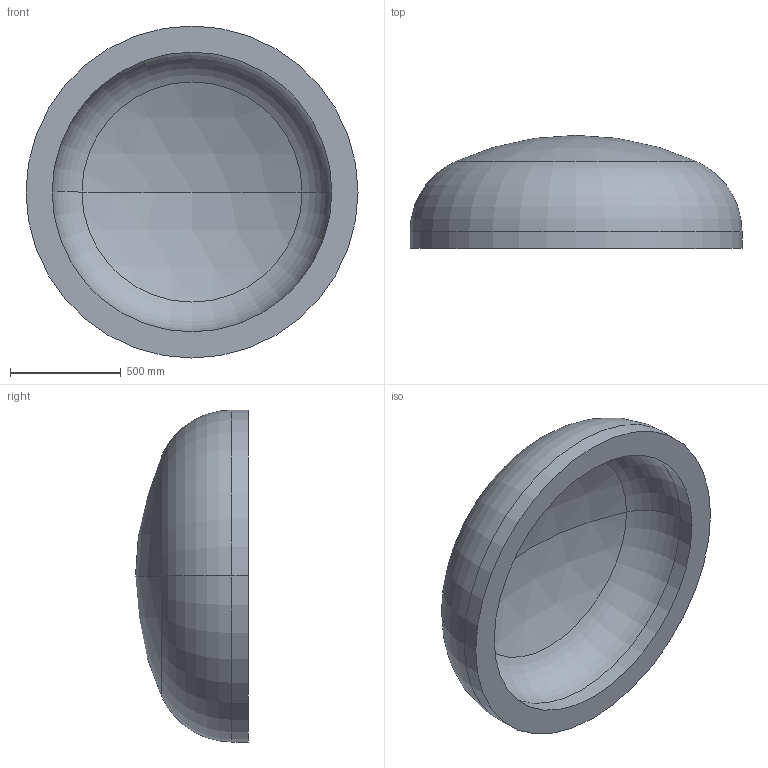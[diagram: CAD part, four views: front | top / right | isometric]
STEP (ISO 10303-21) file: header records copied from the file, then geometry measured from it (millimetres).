
FILE_DESCRIPTION (( 'STEP AP203' ), '1' );
FILE_NAME ('DIN 28013 Korbbogenform_-_Boden DIN 28013 - 1500 x 75 - I - s=118.step', '2016-07-01T11:01:17', ( '' ), ( '' ), 'SwSTEP 2.0', 'SolidWorks 2013', '' );
FILE_SCHEMA (( 'CONFIG_CONTROL_DESIGN' ));
Length unit declared in the file: millimetre
Products named in the file (1): DIN 28013 Korbbogenform_-_Boden DIN 28013 - 1500 x 75 - I - s=118
Bounding box: 1500 x 510.22 x 1500 mm (x, y, z)
Volume: 299809002.3 mm3; surface area: 5622988.2 mm2
Topology: 1 solids, 1 shells, 13 faces, 24 edges, 14 vertices
Faces by surface type: torus 4, cylinder 4, sphere 4, plane 1
Entity records: 407 total; most frequent: DIRECTION 72, CARTESIAN_POINT 52, ORIENTED_EDGE 48, AXIS2_PLACEMENT_3D 34, EDGE_CURVE 24, CIRCLE 20, EDGE_LOOP 14, VERTEX_POINT 14
